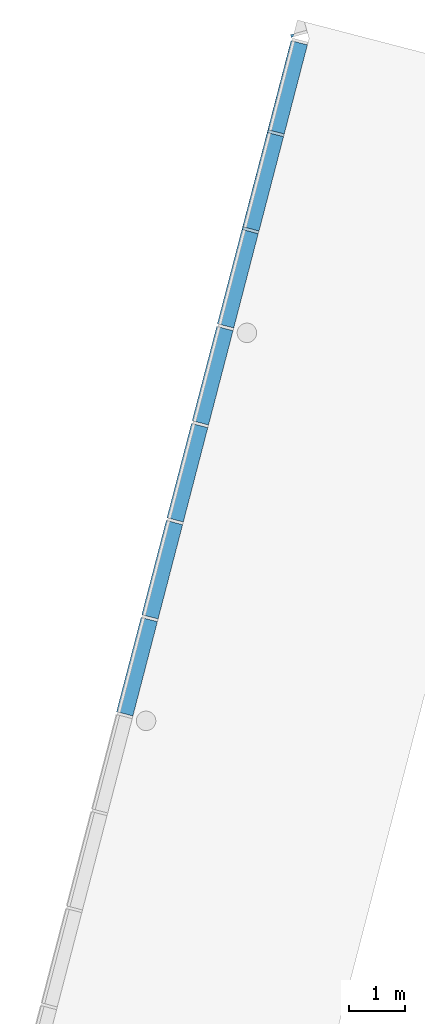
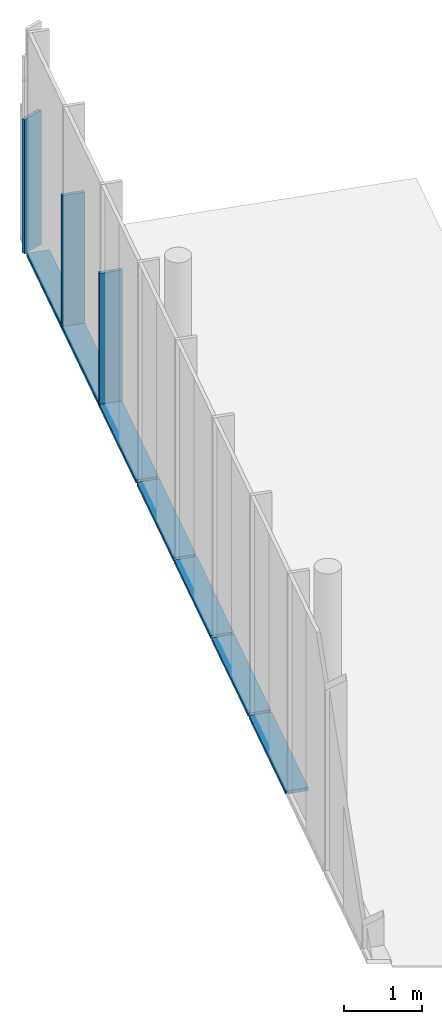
# One storey, part 2 of 9: 12 members, 6 elements without a shape of their own.
"""IFC2X3 building model written with IfcOpenShell, lengths in millimetres."""

from ifc_helpers import new_model, entity, si_unit, converted_unit, derived_unit, direction, frame, origin, origin_with_axes, origin_2d_with_axis, place, context, subcontext, project, spatial, rectangle, extrude, source, transform, mapped, material, type_object, element, aggregate, save


model = new_model("IFC2X3")

# Units and contexts
model_context = context("Model", 3, precision=0.01, world=origin(), true_north=direction((6.12323399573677e-17, 1.0)))
plan_context = context("Plan", 3, precision=1e-05, world=origin_with_axes())
body_context = subcontext(model_context, "Body", "Model", "MODEL_VIEW")
ifc_project = project(units=[converted_unit("PLANEANGLEUNIT", "DEGREE", entity("IfcPositiveLengthMeasure", 0.0174532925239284), si_unit("PLANEANGLEUNIT", "RADIAN"), dimensions=[0, 0, 0, 0, 0, 0, 0]), si_unit("AREAUNIT", "SQUARE_METRE"), si_unit("LENGTHUNIT", "METRE", prefix="MILLI"), si_unit("MASSUNIT", "GRAM", prefix="KILO"), si_unit("POWERUNIT", "WATT"), si_unit("PRESSUREUNIT", "PASCAL", prefix="KILO"), si_unit("FORCEUNIT", "NEWTON", prefix="KILO"), si_unit("ELECTRICVOLTAGEUNIT", "VOLT"), si_unit("ELECTRICCURRENTUNIT", "AMPERE"), si_unit("THERMODYNAMICTEMPERATUREUNIT", "DEGREE_CELSIUS"), si_unit("TIMEUNIT", "SECOND"), si_unit("VOLUMEUNIT", "CUBIC_METRE"), derived_unit("LINEARVELOCITYUNIT", [(si_unit("LENGTHUNIT", "METRE"), 1), (si_unit("TIMEUNIT", "SECOND"), -1)]), derived_unit("VOLUMETRICFLOWRATEUNIT", [(si_unit("VOLUMEUNIT", "CUBIC_METRE"), 1), (si_unit("TIMEUNIT", "SECOND"), -1)]), derived_unit("THERMALTRANSMITTANCEUNIT", [(si_unit("POWERUNIT", "WATT"), 1), (si_unit("THERMODYNAMICTEMPERATUREUNIT", "KELVIN"), -1), (si_unit("AREAUNIT", "SQUARE_METRE"), -1)]), derived_unit("SOUNDPRESSUREUNIT", [(si_unit("PRESSUREUNIT", "PASCAL"), 1)])], contexts=[model_context, plan_context])

# Site, building, storey
site_placement = place(None, frame((0.0, -2.21771188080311e-09, 0.0), z_axis=(0.0, 0.0, 1.0), x_axis=(0.266093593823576, -0.963947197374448, 0.0)))
site = spatial("IfcSite", under=ifc_project, at=site_placement, Name="ENZV", CompositionType="ELEMENT")
building_placement = place(site_placement, origin_with_axes())
building = spatial("IfcBuilding", under=site, at=building_placement, Name="ZV001", CompositionType="ELEMENT")
storey_placement = place(building_placement, frame((0.0, 0.0, 5100.0), z_axis=(0.0, 0.0, 1.0), x_axis=(1.0, 0.0, 0.0)))
storey = spatial("IfcBuildingStorey", under=building, at=storey_placement, Name="H01", CompositionType="ELEMENT", Elevation=5100.0)

# Curtain wall, member
curtain_wall_type = type_object("IfcCurtainWallType", Name="Curtain Wall:Curtain Wall glass 125mm ut", PredefinedType="NOTDEFINED")
curtain_wall_1_placement = place(storey_placement, frame((0.0, 0.0, -5100.0), z_axis=(0.0, 0.0, 1.0), x_axis=(1.0, 0.0, 0.0)))
curtain_wall_1 = element("IfcCurtainWall", 1, at=curtain_wall_1_placement, inside=storey, type_object=curtain_wall_type, Name="Curtain Wall:Curtain Wall glass 125mm ut", ObjectType="Curtain Wall:Curtain Wall glass 125mm ut")
ifc_material = material(Name="Aluminium")
member_type_1 = type_object("IfcMemberType", Name="Rectangular Mullion:ENZV_300x50mm_offset 70", PredefinedType="MULLION", material=ifc_material)
shared_shape_1 = source(origin(), body_context, "Body", "SweptSolid", [
    extrude(rectangle(XDim=50.0, YDim=303.0, at=origin_2d_with_axis()), frame((-25.0, 67.0, -2095.0), z_axis=(0.0, 0.0, 1.0), x_axis=(-1.0, 0.0, 0.0)), (0.0, 0.0, 1.0), 2095.00000000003),
])
member_1_placement = place(curtain_wall_1_placement, frame((-182783.615731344, 380431.274492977, 5120.0), z_axis=(0.0, 0.0, -1.0), x_axis=(1.0, 0.0, 0.0)))
member_1 = element("IfcMember", 2, at=member_1_placement, type_object=member_type_1, material=ifc_material, Name="Rectangular Mullion:ENZV_300x50mm_offset 70", ObjectType="Rectangular Mullion:ENZV_300x50mm_offset 70", context=body_context, shape_type="MappedRepresentation", body=[
    mapped(shared_shape_1, transform((0.0, 0.0, 0.0), scale=1.0)),
])
aggregate(curtain_wall_1, [member_1])

curtain_wall_2_placement = place(storey_placement, frame((0.0, 0.0, -5100.0), z_axis=(0.0, 0.0, 1.0), x_axis=(1.0, 0.0, 0.0)))
curtain_wall_2 = element("IfcCurtainWall", 3, at=curtain_wall_2_placement, inside=storey, type_object=curtain_wall_type, Name="Curtain Wall:Curtain Wall glass 125mm ut", ObjectType="Curtain Wall:Curtain Wall glass 125mm ut")
member_type_2 = type_object("IfcMemberType", Name="Rectangular Mullion:ENZV_304x50mm", PredefinedType="MULLION", material=ifc_material)
shared_shape_2 = source(origin(), body_context, "Body", "SweptSolid", [
    extrude(rectangle(XDim=50.0, YDim=304.0, at=origin_2d_with_axis()), frame((-25.0, 0.0, -1750.01314524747), z_axis=(0.0, 0.0, 1.0), x_axis=(-1.0, 0.0, 0.0)), (0.0, 0.0, 1.0), 1750.01314524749),
])
member_2_placement = place(curtain_wall_2_placement, frame((-179662.488047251, 378597.737106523, 5120.0), z_axis=(0.866025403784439, -0.5, 0.0), x_axis=(0.0, 0.0, -1.0)))
member_2 = element("IfcMember", 4, at=member_2_placement, type_object=member_type_2, material=ifc_material, Name="Rectangular Mullion:ENZV_304x50mm", ObjectType="Rectangular Mullion:ENZV_304x50mm", context=body_context, shape_type="MappedRepresentation", body=[
    mapped(shared_shape_2, transform((0.0, 0.0, 0.0), scale=1.0)),
])

curtain_wall_3_placement = place(storey_placement, frame((0.0, 0.0, -5100.0), z_axis=(0.0, 0.0, 1.0), x_axis=(1.0, 0.0, 0.0)))
curtain_wall_3 = element("IfcCurtainWall", 5, at=curtain_wall_3_placement, inside=storey, type_object=curtain_wall_type, Name="Curtain Wall:Curtain Wall glass 125mm ut", ObjectType="Curtain Wall:Curtain Wall glass 125mm ut")
member_type_3 = type_object("IfcMemberType", Name="Rectangular Mullion:ENZV_304x50mm", PredefinedType="MULLION", material=ifc_material)
shared_shape_3 = source(origin(), body_context, "Body", "SweptSolid", [
    extrude(rectangle(XDim=50.0, YDim=304.0, at=origin_2d_with_axis()), frame((-25.0, 0.0, -1749.98645965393), z_axis=(0.0, 0.0, 1.0), x_axis=(-1.0, 0.0, 0.0)), (0.0, 0.0, 1.0), 1749.98645965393),
])
member_3_placement = place(curtain_wall_3_placement, frame((-179661.98590145, 378598.596526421, 5120.0), z_axis=(0.866025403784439, -0.5, 0.0), x_axis=(0.0, 0.0, -1.0)))
member_3 = element("IfcMember", 6, at=member_3_placement, type_object=member_type_3, material=ifc_material, Name="Rectangular Mullion:ENZV_304x50mm", ObjectType="Rectangular Mullion:ENZV_304x50mm", context=body_context, shape_type="MappedRepresentation", body=[
    mapped(shared_shape_3, transform((0.0, 0.0, 0.0), scale=1.0)),
])
aggregate(curtain_wall_3, [member_3])

# Member
member_type_4 = type_object("IfcMemberType", Name="Rectangular Mullion:ENZV_304x50mm", PredefinedType="MULLION", material=ifc_material)
shared_shape_4 = source(origin(), body_context, "Body", "SweptSolid", [
    extrude(rectangle(XDim=50.0, YDim=304.0, at=origin_2d_with_axis()), frame((0.0, 0.0, -2095.0), z_axis=(0.0, 0.0, 1.0), x_axis=(-1.0, 0.0, 0.0)), (0.0, 0.0, 1.0), 2095.0),
])
member_4_placement = place(curtain_wall_2_placement, frame((-181199.640350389, 379485.311214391, 5120.0), z_axis=(0.0, 0.0, -1.0), x_axis=(-0.866025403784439, 0.5, 0.0)))
member_4 = element("IfcMember", 7, at=member_4_placement, type_object=member_type_4, material=ifc_material, Name="Rectangular Mullion:ENZV_304x50mm", ObjectType="Rectangular Mullion:ENZV_304x50mm", context=body_context, shape_type="MappedRepresentation", body=[
    mapped(shared_shape_4, transform((0.0, 0.0, 0.0), scale=1.0)),
])

member_5_placement = place(curtain_wall_2_placement, frame((-179640.838014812, 378585.23606275, 5120.0), z_axis=(0.0, 0.0, -1.0), x_axis=(-0.866025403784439, 0.5, 0.0)))
member_5 = element("IfcMember", 8, at=member_5_placement, type_object=member_type_4, material=ifc_material, Name="Rectangular Mullion:ENZV_304x50mm", ObjectType="Rectangular Mullion:ENZV_304x50mm", context=body_context, shape_type="MappedRepresentation", body=[
    mapped(shared_shape_4, transform((0.0, 0.0, 0.0), scale=1.0)),
])

aggregate(curtain_wall_2, [member_4, member_5, member_2])

# Curtain wall, member
curtain_wall_4_placement = place(storey_placement, frame((0.0, 0.0, -5100.0), z_axis=(0.0, 0.0, 1.0), x_axis=(1.0, 0.0, 0.0)))
curtain_wall_4 = element("IfcCurtainWall", 9, at=curtain_wall_4_placement, inside=storey, type_object=curtain_wall_type, Name="Curtain Wall:Curtain Wall glass 125mm ut", ObjectType="Curtain Wall:Curtain Wall glass 125mm ut")
member_type_5 = type_object("IfcMemberType", Name="Rectangular Mullion:ENZV_304x50mm", PredefinedType="MULLION", material=ifc_material)
shared_shape_5 = source(origin(), body_context, "Body", "SweptSolid", [
    extrude(rectangle(XDim=50.0, YDim=304.0, at=origin_2d_with_axis()), frame((-25.0, 0.0, -1653.91624392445), z_axis=(0.0, 0.0, 1.0), x_axis=(-1.0, 0.0, 0.0)), (0.0, 0.0, 1.0), 1653.91624392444),
])
member_6_placement = place(curtain_wall_4_placement, frame((-181221.42111037, 379497.530990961, 5120.0), z_axis=(0.866025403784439, -0.5, 0.0), x_axis=(0.0, 0.0, -1.0)))
member_6 = element("IfcMember", 10, at=member_6_placement, type_object=member_type_5, material=ifc_material, Name="Rectangular Mullion:ENZV_304x50mm", ObjectType="Rectangular Mullion:ENZV_304x50mm", context=body_context, shape_type="MappedRepresentation", body=[
    mapped(shared_shape_5, transform((0.0, 0.0, 0.0), scale=1.0)),
])
aggregate(curtain_wall_4, [member_6])

curtain_wall_5_placement = place(storey_placement, frame((0.0, 0.0, -5100.0), z_axis=(0.0, 0.0, 1.0), x_axis=(1.0, 0.0, 0.0)))
curtain_wall_5 = element("IfcCurtainWall", 11, at=curtain_wall_5_placement, inside=storey, type_object=curtain_wall_type, Name="Curtain Wall:Curtain Wall glass 125mm ut", ObjectType="Curtain Wall:Curtain Wall glass 125mm ut")
member_type_6 = type_object("IfcMemberType", Name="Rectangular Mullion:ENZV_304x50mm", PredefinedType="MULLION", material=ifc_material)
shared_shape_6 = source(origin(), body_context, "Body", "SweptSolid", [
    extrude(rectangle(XDim=50.0, YDim=304.0, at=origin_2d_with_axis()), frame((-25.0, 0.0, -1653.89399127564), z_axis=(0.0, 0.0, 1.0), x_axis=(-1.0, 0.0, 0.0)), (0.0, 0.0, 1.0), 1653.89399127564),
])
member_7_placement = place(curtain_wall_5_placement, frame((-181220.789703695, 379498.669137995, 5120.0), z_axis=(0.866025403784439, -0.5, 0.0), x_axis=(0.0, 0.0, -1.0)))
member_7 = element("IfcMember", 12, at=member_7_placement, type_object=member_type_6, material=ifc_material, Name="Rectangular Mullion:ENZV_304x50mm", ObjectType="Rectangular Mullion:ENZV_304x50mm", context=body_context, shape_type="MappedRepresentation", body=[
    mapped(shared_shape_6, transform((0.0, 0.0, 0.0), scale=1.0)),
])
aggregate(curtain_wall_5, [member_7])

# Curtain wall, members
curtain_wall_6_placement = place(storey_placement, frame((0.0, 0.0, -5100.0), z_axis=(0.0, 0.0, 1.0), x_axis=(1.0, 0.0, 0.0)))
curtain_wall_6 = element("IfcCurtainWall", 13, at=curtain_wall_6_placement, inside=storey, type_object=curtain_wall_type, Name="Curtain Wall:Curtain Wall glass 125mm ut", ObjectType="Curtain Wall:Curtain Wall glass 125mm ut")
member_type_7 = type_object("IfcMemberType", Name="Rectangular Mullion:ENZV_304x50mm", PredefinedType="MULLION", material=ifc_material)
shared_shape_7 = source(origin(), body_context, "Body", "SweptSolid", [
    extrude(rectangle(XDim=50.0, YDim=304.0, at=origin_2d_with_axis()), frame((-25.0, 0.0, -1750.0), z_axis=(0.0, 0.0, 1.0), x_axis=(-1.0, 0.0, 0.0)), (0.0, 0.0, 1.0), 1750.00000000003),
])
member_8_placement = place(curtain_wall_6_placement, frame((-173384.25848429, 374972.032700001, 5120.0), z_axis=(-0.866025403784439, 0.5, 0.0), x_axis=(0.0, 0.0, -1.0)))
member_8 = element("IfcMember", 14, at=member_8_placement, type_object=member_type_7, material=ifc_material, Name="Rectangular Mullion:ENZV_304x50mm", ObjectType="Rectangular Mullion:ENZV_304x50mm", context=body_context, shape_type="MappedRepresentation", body=[
    mapped(shared_shape_7, transform((0.0, 0.0, 0.0), scale=1.0)),
])
member_9_placement = place(curtain_wall_6_placement, frame((-174943.062286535, 375872.105311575, 5120.0), z_axis=(-0.866025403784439, 0.5, 0.0), x_axis=(0.0, 0.0, -1.0)))
member_9 = element("IfcMember", 15, at=member_9_placement, type_object=member_type_7, material=ifc_material, Name="Rectangular Mullion:ENZV_304x50mm", ObjectType="Rectangular Mullion:ENZV_304x50mm", context=body_context, shape_type="MappedRepresentation", body=[
    mapped(shared_shape_7, transform((0.0, 0.0, 0.0), scale=1.0)),
])
member_10_placement = place(curtain_wall_6_placement, frame((-176501.86608878, 376772.177923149, 5120.0), z_axis=(-0.866025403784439, 0.5, 0.0), x_axis=(0.0, 0.0, -1.0)))
member_10 = element("IfcMember", 16, at=member_10_placement, type_object=member_type_7, material=ifc_material, Name="Rectangular Mullion:ENZV_304x50mm", ObjectType="Rectangular Mullion:ENZV_304x50mm", context=body_context, shape_type="MappedRepresentation", body=[
    mapped(shared_shape_7, transform((0.0, 0.0, 0.0), scale=1.0)),
])
member_11_placement = place(curtain_wall_6_placement, frame((-178060.669891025, 377672.250534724, 5120.0), z_axis=(-0.866025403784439, 0.5, 0.0), x_axis=(0.0, 0.0, -1.0)))
member_11 = element("IfcMember", 17, at=member_11_placement, type_object=member_type_7, material=ifc_material, Name="Rectangular Mullion:ENZV_304x50mm", ObjectType="Rectangular Mullion:ENZV_304x50mm", context=body_context, shape_type="MappedRepresentation", body=[
    mapped(shared_shape_7, transform((0.0, 0.0, 0.0), scale=1.0)),
])
member_12_placement = place(curtain_wall_6_placement, frame((-179619.47369327, 378572.323146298, 5120.0), z_axis=(-0.866025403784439, 0.5, 0.0), x_axis=(0.0, 0.0, -1.0)))
member_12 = element("IfcMember", 18, at=member_12_placement, type_object=member_type_7, material=ifc_material, Name="Rectangular Mullion:ENZV_304x50mm", ObjectType="Rectangular Mullion:ENZV_304x50mm", context=body_context, shape_type="MappedRepresentation", body=[
    mapped(shared_shape_7, transform((0.0, 0.0, 0.0), scale=1.0)),
])
aggregate(curtain_wall_6, [member_8, member_9, member_10, member_11, member_12])

save(model, "model.ifc")
